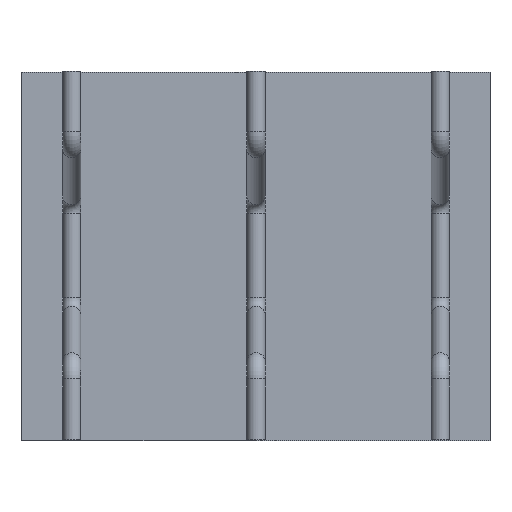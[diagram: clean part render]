
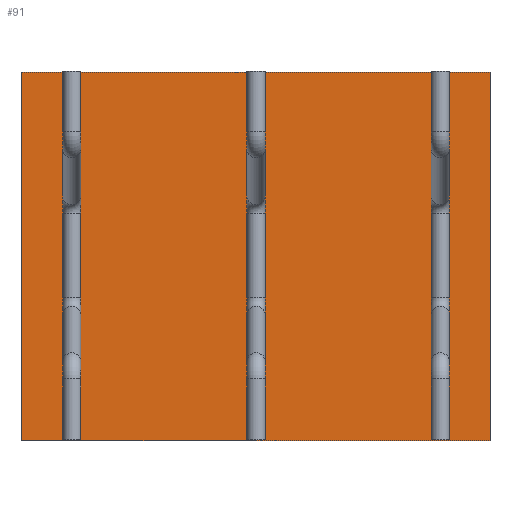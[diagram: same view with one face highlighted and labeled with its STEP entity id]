
A CAD part, top view. The second image highlights one B-rep face of the part: STEP entity #91.
In plain terms, the highlighted planar face has unit normal (0, 0, 1).
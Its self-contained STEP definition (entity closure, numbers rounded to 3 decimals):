
#52=CARTESIAN_POINT('Axis2P3D Location',(0.,0.,0.)) ;
#57=CARTESIAN_POINT('Line Origine',(0.,500.,0.)) ;
#61=CARTESIAN_POINT('Vertex',(635.,500.,0.)) ;
#63=CARTESIAN_POINT('Vertex',(-635.,500.,0.)) ;
#66=CARTESIAN_POINT('Line Origine',(-635.,0.,0.)) ;
#70=CARTESIAN_POINT('Vertex',(-635.,-500.,0.)) ;
#73=CARTESIAN_POINT('Line Origine',(0.,-500.,0.)) ;
#77=CARTESIAN_POINT('Vertex',(635.,-500.,0.)) ;
#80=CARTESIAN_POINT('Line Origine',(635.,0.,0.)) ;
#53=DIRECTION('Axis2P3D Direction',(0.,0.,1.)) ;
#54=DIRECTION('Axis2P3D XDirection',(1.,0.,0.)) ;
#58=DIRECTION('Vector Direction',(1.,0.,0.)) ;
#67=DIRECTION('Vector Direction',(0.,1.,0.)) ;
#74=DIRECTION('Vector Direction',(-1.,0.,0.)) ;
#81=DIRECTION('Vector Direction',(0.,-1.,0.)) ;
#55=AXIS2_PLACEMENT_3D('Plane Axis2P3D',#52,#53,#54) ;
#86=ORIENTED_EDGE('',*,*,#65,.T.) ;
#87=ORIENTED_EDGE('',*,*,#72,.T.) ;
#88=ORIENTED_EDGE('',*,*,#79,.T.) ;
#89=ORIENTED_EDGE('',*,*,#84,.T.) ;
#59=VECTOR('Line Direction',#58,1.) ;
#68=VECTOR('Line Direction',#67,1.) ;
#75=VECTOR('Line Direction',#74,1.) ;
#82=VECTOR('Line Direction',#81,1.) ;
#91=ADVANCED_FACE('Fill.1',(#90),#56,.T.) ;
#65=EDGE_CURVE('',#62,#64,#60,.F.) ;
#72=EDGE_CURVE('',#64,#71,#69,.F.) ;
#79=EDGE_CURVE('',#71,#78,#76,.F.) ;
#84=EDGE_CURVE('',#78,#62,#83,.F.) ;
#85=EDGE_LOOP('',(#86,#87,#88,#89)) ;
#90=FACE_OUTER_BOUND('',#85,.T.) ;
#60=LINE('Line',#57,#59) ;
#69=LINE('Line',#66,#68) ;
#76=LINE('Line',#73,#75) ;
#83=LINE('Line',#80,#82) ;
#56=PLANE('',#55) ;
#62=VERTEX_POINT('',#61) ;
#64=VERTEX_POINT('',#63) ;
#71=VERTEX_POINT('',#70) ;
#78=VERTEX_POINT('',#77) ;
